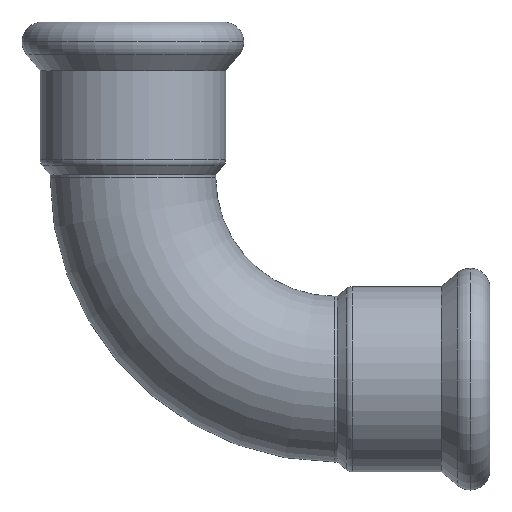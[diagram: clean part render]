
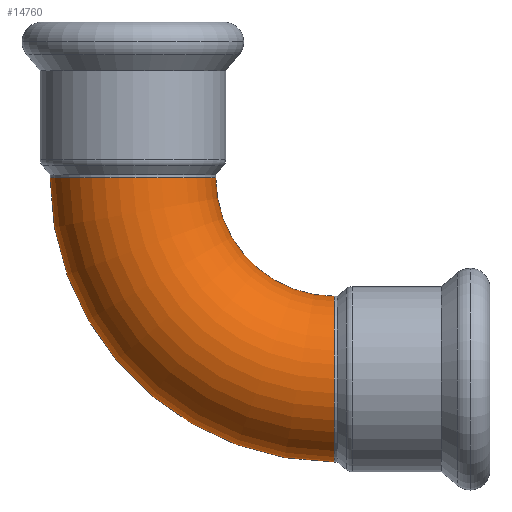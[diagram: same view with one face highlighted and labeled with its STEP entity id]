
A CAD part, top view. The second image highlights one B-rep face of the part: STEP entity #14760.
In plain terms, the highlighted toroidal (fillet/blend) face has major radius 34 mm and minor radius 14 mm.
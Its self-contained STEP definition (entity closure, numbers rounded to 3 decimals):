
#14130=CARTESIAN_POINT('',(-390.306,41.373,
0.));
#14140=VERTEX_POINT('',#14130);
#14280=CARTESIAN_POINT('',(-418.306,41.373,0.));
#14290=VERTEX_POINT('',#14280);
#14370=CARTESIAN_POINT('',(-370.306,41.373,0.));
#14380=DIRECTION('',(0.,0.,1.));
#14390=DIRECTION('',(-1.,0.,0.));
#14400=AXIS2_PLACEMENT_3D('',#14370,#14380,#14390);
#14410=TOROIDAL_SURFACE('',#14400,34.,14.);
#14420=CARTESIAN_POINT('',(-370.306,41.373,
0.));
#14430=DIRECTION('',(0.,0.,1.));
#14440=DIRECTION('',(-1.,0.,0.));
#14450=AXIS2_PLACEMENT_3D('',#14420,#14430,#14440);
#14460=CIRCLE('',#14450,48.);
#14470=CARTESIAN_POINT('',(-370.306,-6.627,
0.));
#14480=VERTEX_POINT('',#14470);
#14490=EDGE_CURVE('',#14290,#14480,#14460,.T.);
#14500=ORIENTED_EDGE('',*,*,#14490,.T.);
#14510=CARTESIAN_POINT('',(-404.306,41.373,0.));
#14520=DIRECTION('',(0.,-1.,0.));
#14530=DIRECTION('',(-1.,0.,0.));
#14540=AXIS2_PLACEMENT_3D('',#14510,#14520,#14530);
#14550=CIRCLE('',#14540,14.);
#14560=EDGE_CURVE('',#14140,#14290,#14550,.T.);
#14570=ORIENTED_EDGE('',*,*,#14560,.T.);
#14580=CARTESIAN_POINT('',(-370.306,41.373,
0.));
#14590=DIRECTION('',(0.,0.,1.));
#14600=DIRECTION('',(-1.,0.,0.));
#14610=AXIS2_PLACEMENT_3D('',#14580,#14590,#14600);
#14620=CIRCLE('',#14610,20.);
#14630=CARTESIAN_POINT('',(-370.306,21.373,
0.));
#14640=VERTEX_POINT('',#14630);
#14650=EDGE_CURVE('',#14140,#14640,#14620,.T.);
#14660=ORIENTED_EDGE('',*,*,#14650,.F.);
#14670=CARTESIAN_POINT('',(-370.306,7.373,0.));
#14680=DIRECTION('',(1.,0.,0.));
#14690=DIRECTION('',(0.,-1.,0.));
#14700=AXIS2_PLACEMENT_3D('',#14670,#14680,#14690);
#14710=CIRCLE('',#14700,14.);
#14720=EDGE_CURVE('',#14640,#14480,#14710,.T.);
#14730=ORIENTED_EDGE('',*,*,#14720,.F.);
#14740=EDGE_LOOP('',(#14730,#14660,#14570,#14500));
#14750=FACE_OUTER_BOUND('',#14740,.T.);
#14760=ADVANCED_FACE('',(#14750),#14410,.T.);
